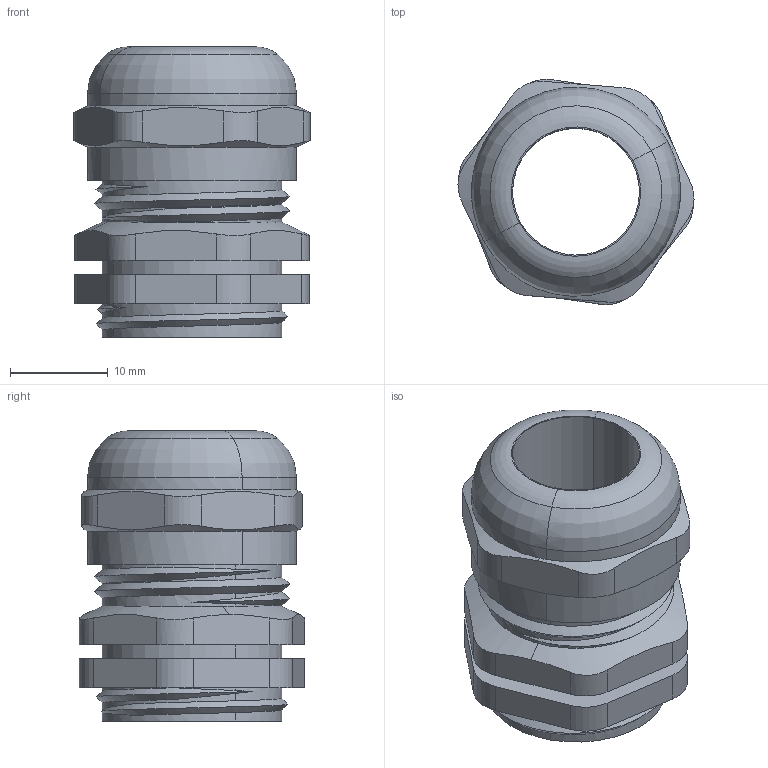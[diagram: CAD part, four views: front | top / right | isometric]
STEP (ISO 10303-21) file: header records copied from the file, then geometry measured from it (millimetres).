
FILE_DESCRIPTION(('CATIA V5 STEP Exchange'),'2;1');
FILE_NAME('C:\Users\Administrator\Desktop\m20-1.5tong.stp','2023-07-10T07:48:52+00:00',('none'),('none'),'CATIA Version 5 Release 21 GA (IN-10)','CATIA V5 STEP AP203','none');
FILE_SCHEMA(('CONFIG_CONTROL_DESIGN'));
Length unit declared in the file: millimetre
Products named in the file (1): Part10
Bounding box: 24.17 x 23.08 x 29.7 mm (x, y, z)
Volume: 5517 mm3; surface area: 4299.3 mm2
Topology: 1 solids, 1 shells, 79 faces, 211 edges, 143 vertices
Faces by surface type: cylinder 39, plane 24, cone 8, torus 4, bspline 4
Entity records: 3662 total; most frequent: CARTESIAN_POINT 1877, ORIENTED_EDGE 422, DIRECTION 249, EDGE_CURVE 211, VERTEX_POINT 138, AXIS2_PLACEMENT_3D 114, EDGE_LOOP 85, VECTOR 84
